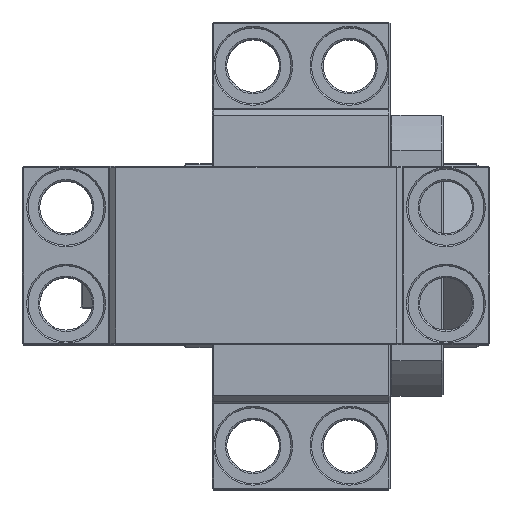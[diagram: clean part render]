
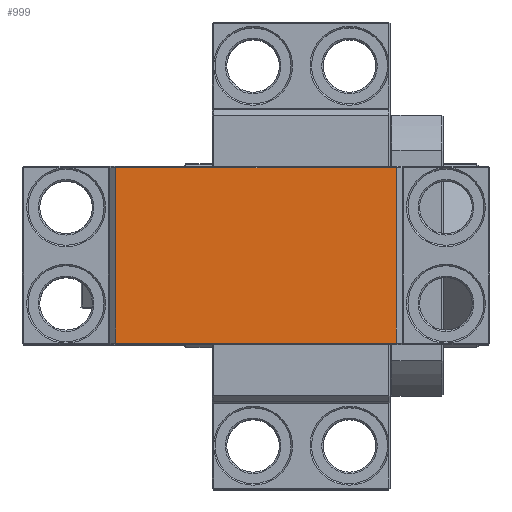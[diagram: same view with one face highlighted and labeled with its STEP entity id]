
A CAD part, top view. The second image highlights one B-rep face of the part: STEP entity #999.
In plain terms, the highlighted planar face has unit normal (0, 0, 1).
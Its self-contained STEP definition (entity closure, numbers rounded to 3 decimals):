
#999 = ADVANCED_FACE( '', ( #2387 ), #2388, .T. );
#2387 = FACE_OUTER_BOUND( '', #4112, .T. );
#2388 = PLANE( '', #4113 );
#4112 = EDGE_LOOP( '', ( #8463, #8464, #8465, #8466 ) );
#4113 = AXIS2_PLACEMENT_3D( '', #8467, #8468, #8469 );
#8463 = ORIENTED_EDGE( '', *, *, #11709, .T. );
#8464 = ORIENTED_EDGE( '', *, *, #11677, .T. );
#8465 = ORIENTED_EDGE( '', *, *, #11706, .T. );
#8466 = ORIENTED_EDGE( '', *, *, #11684, .T. );
#8467 = CARTESIAN_POINT( '', ( 0., -30.5, 110. ) );
#8468 = DIRECTION( '', ( 0., 0., 1. ) );
#8469 = DIRECTION( '', ( 1., 0., 0. ) );
#11677 = EDGE_CURVE( '', #14199, #14196, #14206, .T. );
#11684 = EDGE_CURVE( '', #14210, #14213, #14216, .T. );
#11706 = EDGE_CURVE( '', #14196, #14210, #14259, .T. );
#11709 = EDGE_CURVE( '', #14213, #14199, #14262, .T. );
#14196 = VERTEX_POINT( '', #18834 );
#14199 = VERTEX_POINT( '', #18839 );
#14206 = LINE( '', #18851, #18852 );
#14210 = VERTEX_POINT( '', #18858 );
#14213 = VERTEX_POINT( '', #18863 );
#14216 = LINE( '', #18868, #18869 );
#14259 = LINE( '', #19494, #19495 );
#14262 = LINE( '', #19500, #19501 );
#18834 = CARTESIAN_POINT( '', ( -48., 30., 110. ) );
#18839 = CARTESIAN_POINT( '', ( 48., 30., 110. ) );
#18851 = CARTESIAN_POINT( '', ( 0., 30., 110. ) );
#18852 = VECTOR( '', #23191, 1000. );
#18858 = CARTESIAN_POINT( '', ( -48., -30., 110. ) );
#18863 = CARTESIAN_POINT( '', ( 48., -30., 110. ) );
#18868 = CARTESIAN_POINT( '', ( 48., -30., 110. ) );
#18869 = VECTOR( '', #23198, 1000. );
#19494 = CARTESIAN_POINT( '', ( -48., -30.5, 110. ) );
#19495 = VECTOR( '', #23244, 1000. );
#19500 = CARTESIAN_POINT( '', ( 48., -30.5, 110. ) );
#19501 = VECTOR( '', #23247, 1000. );
#23191 = DIRECTION( '', ( -1., 0., 0. ) );
#23198 = DIRECTION( '', ( 1., 0., 0. ) );
#23244 = DIRECTION( '', ( 0., -1., 0. ) );
#23247 = DIRECTION( '', ( 0., 1., 0. ) );
